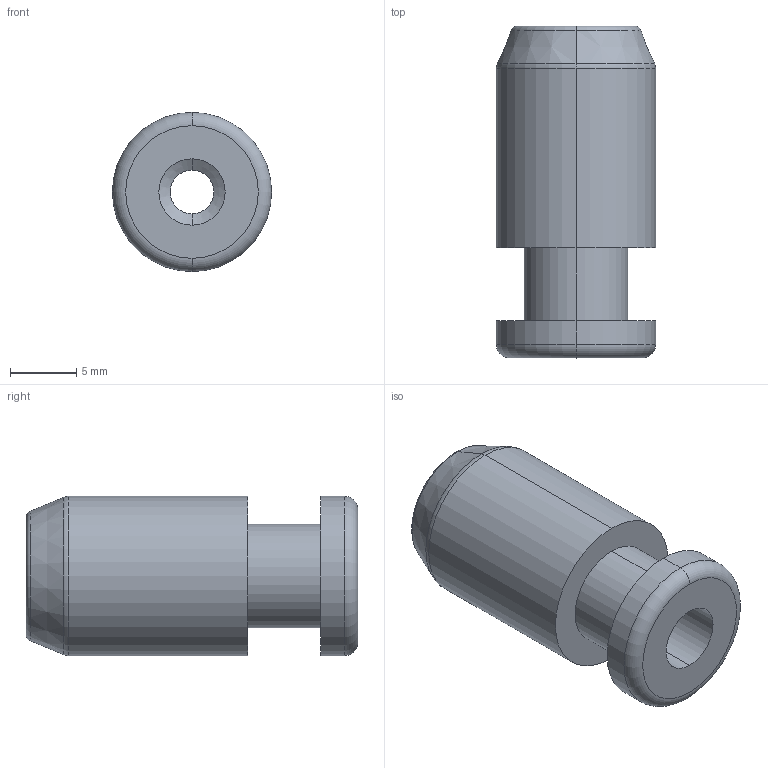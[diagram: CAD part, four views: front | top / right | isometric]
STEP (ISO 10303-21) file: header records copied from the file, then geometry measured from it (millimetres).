
FILE_DESCRIPTION (( 'STEP AP203' ), '1' );
FILE_NAME ('M-PF12-25.STEP', '2020-07-28T01:33:13', ( '' ), ( '' ), 'SwSTEP 2.0', 'SolidWorks 2019', '' );
FILE_SCHEMA (( 'CONFIG_CONTROL_DESIGN' ));
Length unit declared in the file: millimetre
Products named in the file (1): M-PF12-25
Bounding box: 12 x 25 x 12 mm (x, y, z)
Volume: 2011.3 mm3; surface area: 1480.7 mm2
Topology: 1 solids, 1 shells, 24 faces, 48 edges, 28 vertices
Faces by surface type: cylinder 10, torus 6, cone 4, plane 4
Entity records: 711 total; most frequent: DIRECTION 132, CARTESIAN_POINT 101, ORIENTED_EDGE 96, AXIS2_PLACEMENT_3D 59, EDGE_CURVE 48, CIRCLE 34, EDGE_LOOP 28, VERTEX_POINT 28
